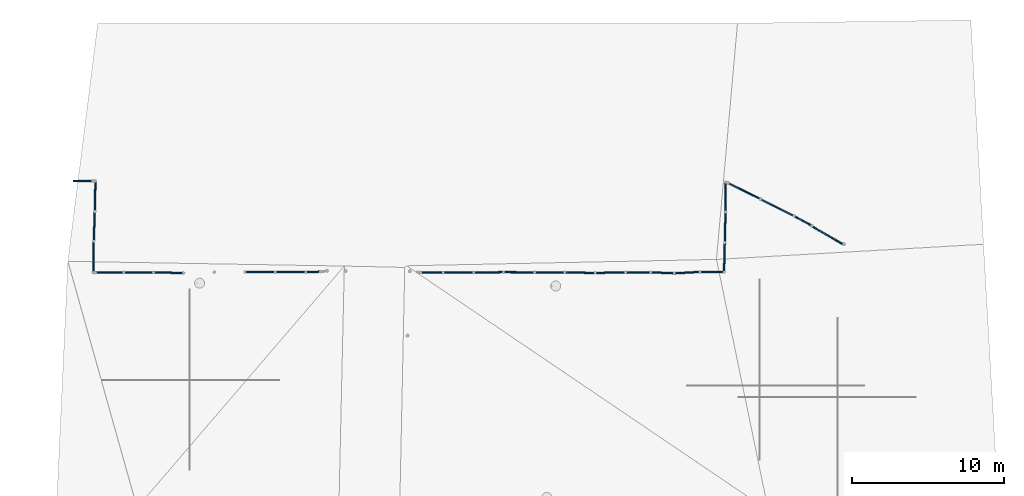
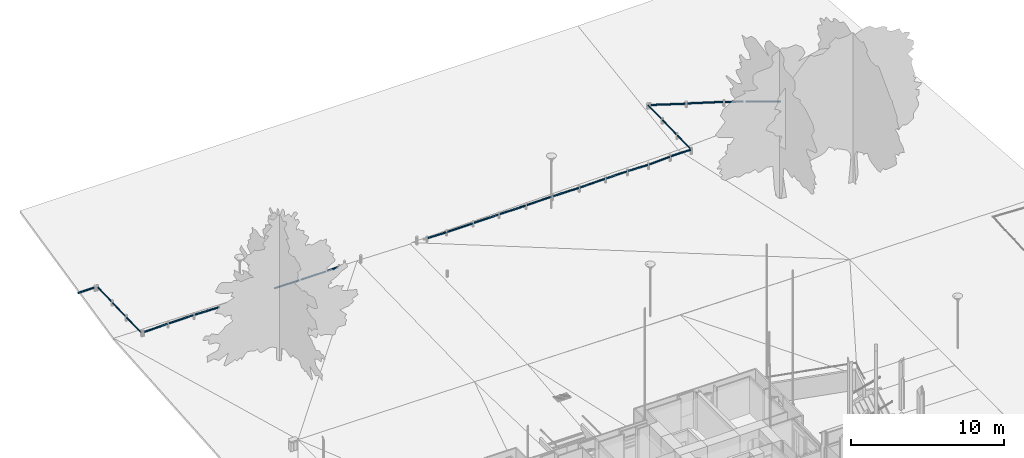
# One storey, part 4 of 133: 28 beams.
"""IFC2X3 building model written with IfcOpenShell, lengths in centimetres."""

from ifc_helpers import new_model, entity, si_unit, converted_unit, direction, frame, origin, origin_with_axes, origin_2d_with_axis, place, context, subcontext, project, spatial, circle, extrude, source, transform, mapped, material, type_object, element, save


model = new_model("IFC2X3")

# Units and contexts
model_context = context("Model", 3, precision=0.0001, world=origin(), true_north=direction((0.225632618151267, 0.974212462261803, 0.0)))
body_context = subcontext(model_context, "Body", "Model", "MODEL_VIEW")
ifc_project = project(units=[si_unit("LENGTHUNIT", "METRE", prefix="CENTI"), si_unit("AREAUNIT", "SQUARE_METRE", prefix="CENTI"), si_unit("VOLUMEUNIT", "CUBIC_METRE", prefix="CENTI"), converted_unit("PLANEANGLEUNIT", "DEGREE", entity("IfcRatioMeasure", 0.0174532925), si_unit("PLANEANGLEUNIT", "RADIAN"), dimensions=[0, 0, 0, 0, 0, 0, 0])], contexts=[model_context])

# Site, building, storey
site_placement = place(None, origin_with_axes())
site = spatial("IfcSite", under=ifc_project, at=site_placement, Name="Default Site", CompositionType="ELEMENT")
building_placement = place(site_placement, origin_with_axes())
building = spatial("IfcBuilding", under=site, at=building_placement, Name="Default Building", CompositionType="ELEMENT")
storey_placement = place(building_placement, frame((0.0, 0.0, -291.400371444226), z_axis=(0.0, 0.0, 1.0), x_axis=(1.0, 0.0, 0.0)))
storey = spatial("IfcBuildingStorey", under=building, at=storey_placement, Name="Rez-de-Jardin", CompositionType="ELEMENT", Elevation=-291.400371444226)

# Beams
ifc_material = material(Name="Chêne rouvre 02")
beam_type = type_object("IfcBeamType", Name="Ø100", PredefinedType="NOTDEFINED", material=ifc_material)
shared_shape = source(origin_with_axes(), body_context, "Body", "SweptSolid", [
    extrude(circle(Radius=5.0, at=origin_2d_with_axis()), origin_with_axes(), (0.0, 0.0, 1.0), 100.0),
])
beam_1_placement = place(storey_placement, frame((2139.94319733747, 3323.51755142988, 140.400371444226), z_axis=(0.999942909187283, -0.00811331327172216, 0.00695359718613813), x_axis=(0.00811350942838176, 0.999967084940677, -6.7762635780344e-21)))
element("IfcBeam", 1, at=beam_1_placement, inside=storey, type_object=beam_type, material=ifc_material, Name="Poutre 1702948", ObjectType="beam", context=body_context, shape_type="MappedRepresentation", body=[
    mapped(shared_shape, transform((0.0, -4.99999999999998, -3.5527136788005e-13), x_axis=(1.0, 6.77659123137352e-21, -1.73481771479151e-18), y_axis=(4.91480008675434e-25, 1.0, 0.0), z_axis=(1.2063981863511e-18, 1.20625682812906e-18, -1.0), scale=1.0, scale2=1.0, scale3=1.43810458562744, uniform=False)),
])
beam_2_placement = place(storey_placement, frame((1828.03540194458, 3316.09286688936, 137.900371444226), z_axis=(-0.998444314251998, -0.0556637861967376, -0.00323948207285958), x_axis=(0.0556640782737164, -0.99844955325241, -2.44928074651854e-16)))
element("IfcBeam", 2, at=beam_2_placement, inside=storey, type_object=beam_type, material=ifc_material, Name="Poutre 1702945", ObjectType="beam", context=body_context, shape_type="MappedRepresentation", body=[
    mapped(shared_shape, transform((7.105427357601e-13, -4.99999999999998, 3.5527136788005e-13), x_axis=(1.0, 1.2848507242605e-21, -1.3084545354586e-17), y_axis=(1.2848507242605e-21, 1.0, 0.0), z_axis=(1.71894954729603e-17, 0.0, -1.0), scale=1.0, scale2=1.0, scale3=1.54345660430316, uniform=False)),
])
beam_3_placement = place(storey_placement, frame((2151.69748901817, 3525.00760163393, 136.400371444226), z_axis=(-0.0255289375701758, -0.99964171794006, 0.00804419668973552), x_axis=(0.999674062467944, -0.0255297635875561, -2.44921435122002e-16)))
element("IfcBeam", 3, at=beam_3_placement, inside=storey, type_object=beam_type, material=ifc_material, Name="Poutre 1703021", ObjectType="beam", context=body_context, shape_type="MappedRepresentation", body=[
    mapped(shared_shape, transform((0.0, -5.0, 7.105427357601e-13), x_axis=(1.0, -1.91788545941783e-20, 1.49881599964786e-18), y_axis=(-1.91788545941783e-20, 1.0, 0.0), z_axis=(-1.75055753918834e-18, -9.30297122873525e-19, -1.0), scale=1.0, scale2=1.0, scale3=1.8646983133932, uniform=False)),
])
beam_4_placement = place(storey_placement, frame((2146.94319733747, 3330.51755142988, 140.400371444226), z_axis=(-0.0263254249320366, -0.999408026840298, 0.0221487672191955), x_axis=(0.999653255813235, -0.0263318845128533, -2.44869275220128e-16)))
element("IfcBeam", 4, at=beam_4_placement, inside=storey, type_object=beam_type, material=ifc_material, Name="Poutre 1703018", ObjectType="beam", context=body_context, shape_type="MappedRepresentation", body=[
    mapped(shared_shape, transform((3.5527136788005e-13, -4.99999999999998, -7.105427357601e-13), x_axis=(1.0, 6.00560279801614e-20, 1.51659106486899e-18), y_axis=(6.00560279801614e-20, 1.0, -3.46944695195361e-18), z_axis=(1.58010419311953e-18, -7.68439729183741e-18, -1.0), scale=1.0, scale2=1.0, scale3=1.8059695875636, uniform=False)),
])
beam_5_placement = place(storey_placement, frame((1307.45357095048, 3318.28902976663, 134.400371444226), z_axis=(-0.999730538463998, -0.0225802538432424, -0.00538354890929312), x_axis=(0.0225805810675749, -0.999745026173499, -2.44925810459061e-16)))
element("IfcBeam", 5, at=beam_5_placement, inside=storey, type_object=beam_type, material=ifc_material, Name="Poutre 1702936", ObjectType="beam", context=body_context, shape_type="MappedRepresentation", body=[
    mapped(shared_shape, transform((0.0, -4.99999999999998, 0.0), x_axis=(1.0, -1.00030775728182e-20, 4.78806555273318e-18), y_axis=(-1.00030775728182e-20, 1.0, 0.0), z_axis=(-5.05420607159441e-18, 1.86779373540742e-18, -1.0), scale=1.0, scale2=1.0, scale3=1.85751075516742, uniform=False)),
])
beam_6_placement = place(storey_placement, frame((1293.45357095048, 3318.28902976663, 135.400371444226), z_axis=(0.999802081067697, -0.019157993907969, 0.00536376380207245), x_axis=(0.0191582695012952, 0.999816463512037, -2.44925836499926e-16)))
element("IfcBeam", 6, at=beam_6_placement, inside=storey, type_object=beam_type, material=ifc_material, Name="Poutre 1702933", ObjectType="beam", context=body_context, shape_type="MappedRepresentation", body=[
    mapped(shared_shape, transform((-7.105427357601e-13, -4.99999999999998, 0.0), x_axis=(1.0, -1.0029313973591e-20, -1.31369984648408e-18), y_axis=(3.52301822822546e-21, 1.0, 8.67361737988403e-19), z_axis=(1.31362715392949e-18, -9.30464698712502e-19, -1.0), scale=1.0, scale2=1.0, scale3=1.86436248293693, uniform=False)),
])
beam_7_placement = place(storey_placement, frame((1814.03540194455, 3316.09286688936, 137.400371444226), z_axis=(0.999136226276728, -0.0415547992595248, 0.0), x_axis=(0.0415547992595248, 0.999136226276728, -2.44929359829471e-16)))
element("IfcBeam", 7, at=beam_7_placement, inside=storey, type_object=beam_type, material=ifc_material, Name="Poutre 1702942", ObjectType="beam", context=body_context, shape_type="MappedRepresentation", body=[
    mapped(shared_shape, transform((0.0, -4.99999999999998, 0.0), x_axis=(1.0, 4.93038065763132e-32, 0.0), y_axis=(0.0, 1.0, 0.0), z_axis=(0.0, -2.16480160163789e-33, -1.0), scale=1.0, scale2=1.0, scale3=1.42345049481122, uniform=False)),
])
beam_8_placement = place(storey_placement, frame((1657.81330637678, 3322.00798684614, 136.400371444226), z_axis=(0.999972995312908, -0.00315505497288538, 0.00663733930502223), x_axis=(0.00315512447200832, 0.999995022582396, 0.0)))
element("IfcBeam", 8, at=beam_8_placement, inside=storey, type_object=beam_type, material=ifc_material, Name="Poutre 1702939", ObjectType="beam", context=body_context, shape_type="MappedRepresentation", body=[
    mapped(shared_shape, transform((7.105427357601e-13, -4.99999999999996, 0.0), x_axis=(1.0, 7.46316634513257e-26, -2.24881802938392e-23), y_axis=(7.46316634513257e-26, 1.0, -8.67361737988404e-19), z_axis=(5.7571990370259e-19, 0.0, -1.0), scale=1.0, scale2=1.0, scale3=1.50662781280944, uniform=False)),
])
beam_9_placement = place(storey_placement, frame((-1994.73526529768, 3328.15393130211, 131.400371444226), z_axis=(-0.0113212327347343, -0.999935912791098, 0.0), x_axis=(0.999935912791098, -0.0113212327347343, -2.44929359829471e-16)))
element("IfcBeam", 9, at=beam_9_placement, inside=storey, type_object=beam_type, material=ifc_material, Name="Poutre 1703098", ObjectType="beam", context=body_context, shape_type="MappedRepresentation", body=[
    mapped(shared_shape, transform((0.0, -4.99999999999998, 0.0), x_axis=(1.0, 0.0, 0.0), y_axis=(0.0, 1.0, 0.0), z_axis=(0.0, 0.0, -1.0), scale=1.0, scale2=1.0, scale3=1.90294901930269, uniform=False)),
])
beam_10_placement = place(storey_placement, frame((2926.36889308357, 3507.59868814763, 138.900371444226), z_axis=(0.865973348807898, -0.499969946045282, 0.0109641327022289), x_axis=(0.5, 0.866025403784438, -2.44914637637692e-16)))
element("IfcBeam", 10, at=beam_10_placement, inside=storey, type_object=beam_type, material=ifc_material, Name="Poutre 1703078", ObjectType="beam", context=body_context, shape_type="MappedRepresentation", body=[
    mapped(shared_shape, transform((-7.105427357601e-13, -4.99999999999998, 1.77635683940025e-13), x_axis=(1.0, 1.475429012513e-20, -2.69129298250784e-18), y_axis=(1.475429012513e-20, 1.0, 1.73472347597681e-18), z_axis=(2.69129298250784e-18, 1.52157907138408e-18, -1.0), scale=1.0, scale2=1.0, scale3=2.2801621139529, uniform=False)),
])
beam_11_placement = place(storey_placement, frame((-2125.61598213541, 3922.56419207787, 130.400371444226), z_axis=(-1.0, 0.0, 0.0), x_axis=(0.0, -1.0, 0.0)))
element("IfcBeam", 11, at=beam_11_placement, inside=storey, type_object=beam_type, material=ifc_material, Name="Poutre 1703108", ObjectType="beam", context=body_context, shape_type="MappedRepresentation", body=[
    mapped(shared_shape, transform((0.0, -4.99999999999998, 0.0), x_axis=(1.0, 0.0, 0.0), y_axis=(0.0, 1.0, 0.0), z_axis=(0.0, 0.0, -1.0), scale=1.0, scale2=1.0, scale3=1.19470747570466, uniform=False)),
])
beam_12_placement = place(storey_placement, frame((-1991.88629970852, 3534.37586878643, 131.400371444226), z_axis=(-0.0336616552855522, -0.999293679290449, 0.0167043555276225), x_axis=(0.999433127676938, -0.033666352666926, -2.44895185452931e-16)))
element("IfcBeam", 12, at=beam_12_placement, inside=storey, type_object=beam_type, material=ifc_material, Name="Poutre 1703103", ObjectType="beam", context=body_context, shape_type="MappedRepresentation", body=[
    mapped(shared_shape, transform((0.0, -5.0, -7.105427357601e-13), x_axis=(1.0, 3.41581202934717e-20, -4.08944089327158e-18), y_axis=(3.41581202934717e-20, 1.0, 0.0), z_axis=(2.25782535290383e-19, -1.9318291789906e-18, -1.0), scale=1.0, scale2=1.0, scale3=1.795938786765, uniform=False)),
])
beam_13_placement = place(storey_placement, frame((2379.34788765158, 3806.92314112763, 130.400371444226), z_axis=(0.896450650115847, -0.443143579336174, 0.0), x_axis=(0.443143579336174, 0.896450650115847, -2.44929359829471e-16)))
element("IfcBeam", 13, at=beam_13_placement, inside=storey, type_object=beam_type, material=ifc_material, Name="Poutre 1703027", ObjectType="beam", context=body_context, shape_type="MappedRepresentation", body=[
    mapped(shared_shape, transform((0.0, -4.99999999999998, 0.0), x_axis=(1.0, 4.93038065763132e-32, 0.0), y_axis=(0.0, 1.0, 0.0), z_axis=(-4.98530608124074e-17, 0.0, -1.0), scale=1.0, scale2=1.0, scale3=2.22699069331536, uniform=False)),
])
beam_14_placement = place(storey_placement, frame((2156.45786570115, 3725.41062417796, 135.400371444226), z_axis=(-0.00776173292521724, -0.999954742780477, 0.00550162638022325), x_axis=(0.999969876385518, -0.00776185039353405, 0.0)))
element("IfcBeam", 14, at=beam_14_placement, inside=storey, type_object=beam_type, material=ifc_material, Name="Poutre 1703024", ObjectType="beam", context=body_context, shape_type="MappedRepresentation", body=[
    mapped(shared_shape, transform((0.0, -5.0, 7.105427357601e-13), x_axis=(1.0, 6.7762635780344e-21, -8.67361737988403e-19), y_axis=(1.02552385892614e-25, 1.0, 0.0), z_axis=(9.54417324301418e-19, 0.0, -1.0), scale=1.0, scale2=1.0, scale3=1.81764433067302, uniform=False)),
])
beam_15_placement = place(storey_placement, frame((2716.93124631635, 3631.96897784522, 134.400371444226), z_axis=(0.878196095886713, -0.478225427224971, -0.00848869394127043), x_axis=(0.478242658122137, 0.878227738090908, -2.44920535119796e-16)))
element("IfcBeam", 15, at=beam_15_placement, inside=storey, type_object=beam_type, material=ifc_material, Name="Poutre 1703072", ObjectType="beam", context=body_context, shape_type="MappedRepresentation", body=[
    mapped(shared_shape, transform((-7.105427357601e-13, -4.99999999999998, -4.44089209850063e-13), x_axis=(1.0, -8.58533413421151e-19, -5.34311691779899e-17), y_axis=(-4.24852544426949e-19, 1.0, 1.73472347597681e-18), z_axis=(4.50417352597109e-17, 0.0, -1.0), scale=1.0, scale2=1.0, scale3=1.17803752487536, uniform=False)),
])
beam_16_placement = place(storey_placement, frame((2599.24237612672, 3695.39934174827, 135.400371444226), z_axis=(0.892506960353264, -0.450846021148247, 0.0130073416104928), x_axis=(0.45088416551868, 0.892582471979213, -2.44908639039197e-16)))
element("IfcBeam", 16, at=beam_16_placement, inside=storey, type_object=beam_type, material=ifc_material, Name="Poutre 1703030", ObjectType="beam", context=body_context, shape_type="MappedRepresentation", body=[
    mapped(shared_shape, transform((0.0, -4.99999999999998, 4.44089209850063e-13), x_axis=(1.0, 8.88054327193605e-19, -5.86926950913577e-17), y_axis=(8.88054327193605e-19, 1.0, 0.0), z_axis=(3.18154386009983e-18, 1.50427605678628e-18, -1.0), scale=1.0, scale2=1.0, scale3=2.30638979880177, uniform=False)),
])
beam_17_placement = place(storey_placement, frame((-1409.66023358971, 3318.03940363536, 133.400371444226), z_axis=(0.999719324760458, -0.0193649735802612, -0.0136480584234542), x_axis=(0.0193667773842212, 0.999812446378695, -2.44852337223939e-16)))
element("IfcBeam", 17, at=beam_17_placement, inside=storey, type_object=beam_type, material=ifc_material, Name="Poutre 1702841", ObjectType="beam", context=body_context, shape_type="MappedRepresentation", body=[
    mapped(shared_shape, transform((0.0, -4.99999999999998, -1.77635683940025e-13), x_axis=(1.0, -3.13983651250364e-20, 6.81214676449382e-18), y_axis=(2.28066944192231e-20, 1.0, 1.73472347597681e-18), z_axis=(-7.13005712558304e-18, -1.89404858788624e-18, -1.0), scale=1.0, scale2=1.0, scale3=1.83176238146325, uniform=False)),
])
beam_18_placement = place(storey_placement, frame((-1788.41055274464, 3321.43656516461, 135.400371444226), z_axis=(-0.999999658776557, -0.000826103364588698, 0.0), x_axis=(0.000826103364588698, -0.999999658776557, 0.0)))
element("IfcBeam", 18, at=beam_18_placement, inside=storey, type_object=beam_type, material=ifc_material, Name="Poutre 1702838", ObjectType="beam", context=body_context, shape_type="MappedRepresentation", body=[
    mapped(shared_shape, transform((0.0, -4.99999999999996, 0.0), x_axis=(1.0, 0.0, 0.0), y_axis=(0.0, 1.0, 0.0), z_axis=(1.19388724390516e-19, 0.0, -1.0), scale=1.0, scale2=1.0, scale3=1.81625556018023, uniform=False)),
])
beam_19_placement = place(storey_placement, frame((-606.35718847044, 3322.87724674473, 133.400371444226), z_axis=(0.99999729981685, -0.00232386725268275, 0.0), x_axis=(0.00232386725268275, 0.99999729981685, -2.44929359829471e-16)))
element("IfcBeam", 19, at=beam_19_placement, inside=storey, type_object=beam_type, material=ifc_material, Name="Poutre 1702853", ObjectType="beam", context=body_context, shape_type="MappedRepresentation", body=[
    mapped(shared_shape, transform((0.0, -4.99999999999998, 0.0), x_axis=(1.0, 0.0, 0.0), y_axis=(0.0, 1.0, 0.0), z_axis=(0.0, 0.0, -1.0), scale=1.0, scale2=1.0, scale3=1.87226340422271, uniform=False)),
])
beam_20_placement = place(storey_placement, frame((-807.583023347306, 3323.31233590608, 132.400371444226), z_axis=(0.999970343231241, -0.00544309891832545, -0.00544842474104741), x_axis=(0.00544317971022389, 0.999985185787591, -3.3881317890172e-21)))
element("IfcBeam", 20, at=beam_20_placement, inside=storey, type_object=beam_type, material=ifc_material, Name="Poutre 1702850", ObjectType="beam", context=body_context, shape_type="MappedRepresentation", body=[
    mapped(shared_shape, transform((1.4210854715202e-12, -5.0, -1.77635683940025e-13), x_axis=(1.0, 1.00578563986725e-25, 1.73476039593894e-18), y_axis=(-3.38803121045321e-21, 1.0, 0.0), z_axis=(-1.89033898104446e-18, 0.0, -1.0), scale=1.0, scale2=1.0, scale3=1.83539288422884, uniform=False)),
])
beam_21_placement = place(storey_placement, frame((-1973.42111868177, 3319.76869134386, 132.400371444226), z_axis=(-0.999798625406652, -0.00975108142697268, -0.0175392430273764), x_axis=(0.00975258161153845, -0.999952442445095, -2.44891683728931e-16)))
element("IfcBeam", 21, at=beam_21_placement, inside=storey, type_object=beam_type, material=ifc_material, Name="Poutre 1702835", ObjectType="beam", context=body_context, shape_type="MappedRepresentation", body=[
    mapped(shared_shape, transform((-7.105427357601e-13, -4.99999999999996, 7.105427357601e-13), x_axis=(1.0, 1.05698019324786e-20, 8.26286738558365e-19), y_axis=(1.05656325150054e-20, 1.0, 3.46944695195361e-18), z_axis=(-2.38493404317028e-19, -8.1135297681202e-18, -1.0), scale=1.0, scale2=1.0, scale3=1.71045010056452, uniform=False)),
])
beam_22_placement = place(storey_placement, frame((509.859908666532, 3321.19431339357, 130.400371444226), z_axis=(-0.999952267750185, -0.0097704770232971, 3.85185988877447e-34), x_axis=(0.0097704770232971, -0.999952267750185, -2.44929359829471e-16)))
element("IfcBeam", 22, at=beam_22_placement, inside=storey, type_object=beam_type, material=ifc_material, Name="Poutre 1702924", ObjectType="beam", context=body_context, shape_type="MappedRepresentation", body=[
    mapped(shared_shape, transform((0.0, -4.99999999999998, 0.0), x_axis=(1.0, 0.0, -1.88686715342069e-49), y_axis=(0.0, 1.0, 0.0), z_axis=(-1.90800681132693e-18, 3.84766297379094e-35, -1.0), scale=1.0, scale2=1.0, scale3=1.8183619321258, uniform=False)),
])
beam_23_placement = place(storey_placement, frame((309.217864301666, 3319.74315628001, 130.400371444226), z_axis=(-0.999969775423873, -0.00777484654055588, 0.0), x_axis=(0.00777484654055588, -0.999969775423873, -2.44929359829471e-16)))
element("IfcBeam", 23, at=beam_23_placement, inside=storey, type_object=beam_type, material=ifc_material, Name="Poutre 1702921", ObjectType="beam", context=body_context, shape_type="MappedRepresentation", body=[
    mapped(shared_shape, transform((0.0, -4.99999999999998, 0.0), x_axis=(1.0, 0.0, 0.0), y_axis=(0.0, 1.0, 0.0), z_axis=(9.29410653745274e-19, 4.12741242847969e-34, -1.0), scale=1.0, scale2=1.0, scale3=1.86647685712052, uniform=False)),
])
beam_24_placement = place(storey_placement, frame((1093.05422191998, 3321.86077427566, 134.400371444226), z_axis=(0.999938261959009, -0.0022591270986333, 0.010879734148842), x_axis=(0.00225926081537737, 0.999997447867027, -2.44918251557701e-16)))
element("IfcBeam", 24, at=beam_24_placement, inside=storey, type_object=beam_type, material=ifc_material, Name="Poutre 1702930", ObjectType="beam", context=body_context, shape_type="MappedRepresentation", body=[
    mapped(shared_shape, transform((0.0, -4.99999999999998, 1.77635683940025e-13), x_axis=(1.0, -5.83286593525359e-21, 8.0476863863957e-19), y_axis=(-5.83286593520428e-21, 1.0, 0.0), z_axis=(-6.38154478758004e-19, 0.0, -1.0), scale=1.0, scale2=1.0, scale3=1.83828021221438, uniform=False)),
])
beam_25_placement = place(storey_placement, frame((895.237549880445, 3322.27606513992, 131.400371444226), z_axis=(0.999993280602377, -0.00366589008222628, 0.0), x_axis=(0.00366589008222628, 0.999993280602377, 0.0)))
element("IfcBeam", 25, at=beam_25_placement, inside=storey, type_object=beam_type, material=ifc_material, Name="Poutre 1702927", ObjectType="beam", context=body_context, shape_type="MappedRepresentation", body=[
    mapped(shared_shape, transform((0.0, -4.99999999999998, 0.0), x_axis=(1.0, 0.0, 0.0), y_axis=(0.0, 1.0, 0.0), z_axis=(0.0, 0.0, -1.0), scale=1.0, scale2=1.0, scale3=1.89551401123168, uniform=False)),
])
beam_26_placement = place(storey_placement, frame((-592.357188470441, 3322.87724674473, 132.400371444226), z_axis=(-0.999063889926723, -0.0432590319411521, 0.0), x_axis=(0.0432590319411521, -0.999063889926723, -2.44929359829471e-16)))
element("IfcBeam", 26, at=beam_26_placement, inside=storey, type_object=beam_type, material=ifc_material, Name="Poutre 1702893", ObjectType="beam", context=body_context, shape_type="MappedRepresentation", body=[
    mapped(shared_shape, transform((0.0, -4.99999999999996, 0.0), x_axis=(1.0, 0.0, 0.0), y_axis=(0.0, 1.0, 0.0), z_axis=(0.0, 1.90892920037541e-33, -1.0), scale=1.0, scale2=1.0, scale3=0.807124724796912, uniform=False)),
])
beam_27_placement = place(storey_placement, frame((295.217864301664, 3319.74315628, 130.400371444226), z_axis=(0.999803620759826, -0.0183342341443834, -0.00752168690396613), x_axis=(0.0183347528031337, 0.99983190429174, -2.71050543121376e-20)))
element("IfcBeam", 27, at=beam_27_placement, inside=storey, type_object=beam_type, material=ifc_material, Name="Poutre 1702918", ObjectType="beam", context=body_context, shape_type="MappedRepresentation", body=[
    mapped(shared_shape, transform((0.0, -4.99999999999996, -4.44089209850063e-14), x_axis=(1.0, 5.42101086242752e-20, 0.0), y_axis=(2.71058210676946e-20, 1.0, 0.0), z_axis=(-2.60981324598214e-18, 0.0, -1.0), scale=1.0, scale2=1.0, scale3=1.3294889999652, uniform=False)),
])
beam_28_placement = place(storey_placement, frame((-1985.14627975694, 3729.78212761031, 129.400371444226), z_axis=(-0.020029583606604, -0.999799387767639, 0.0), x_axis=(0.999799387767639, -0.020029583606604, 0.0)))
element("IfcBeam", 28, at=beam_28_placement, inside=storey, type_object=beam_type, material=ifc_material, Name="Poutre 1703117", ObjectType="beam", context=body_context, shape_type="MappedRepresentation", body=[
    mapped(shared_shape, transform((-3.5527136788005e-13, -4.99999999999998, -7.105427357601e-13), x_axis=(1.0, 0.0, 0.0), y_axis=(0.0, 1.0, 0.0), z_axis=(0.0, 0.0, -1.0), scale=1.0, scale2=1.0, scale3=1.84388246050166, uniform=False)),
])

save(model, "model.ifc")
